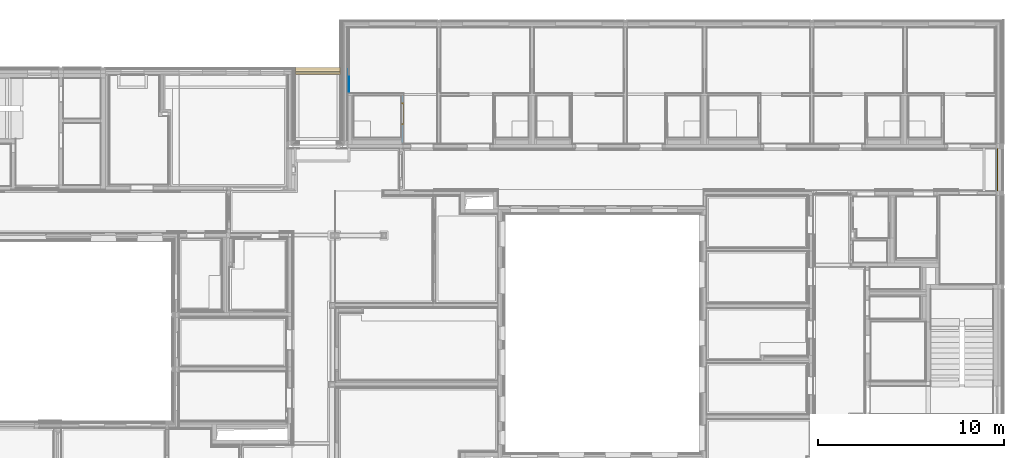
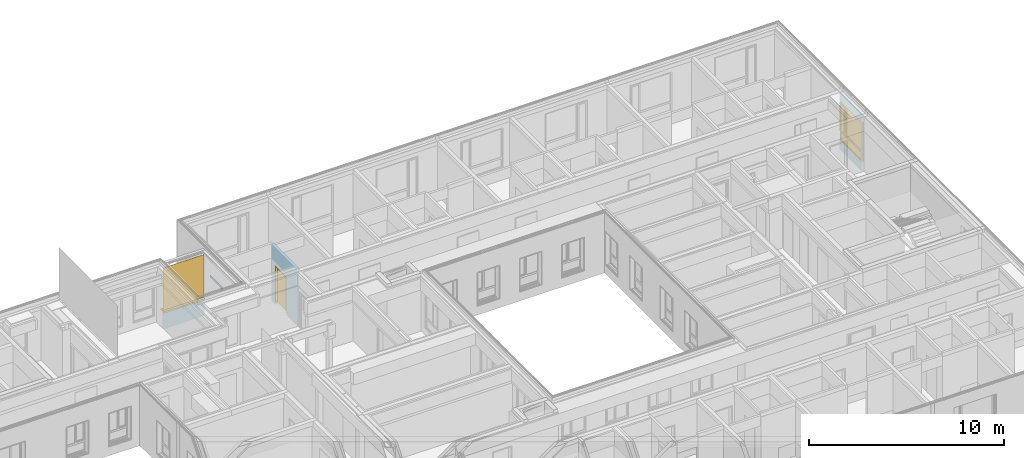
# One storey, part 139 of 222: 2 windows, 1 door, 1 wall, 3 openings, plus 3 elements that do not belong to this part.
"""IFC4 building model written with IfcOpenShell, lengths in metres."""

from ifc_helpers import new_model, entity, si_unit, converted_unit, derived_unit, frame, frame_2d, origin, origin_with_axes, place, context, subcontext, project, spatial, polyline, rectangle, outline, extrude, closed_shell, open_shell, faceted_brep, surface_model, source, transform, mapped, material, type_object, element, fill, save


model = new_model("IFC4")

# Units and contexts
model_context = context("Model", 3, precision=1e-05, world=origin())
body_context = subcontext(model_context, "Body", "Model", "MODEL_VIEW")
ifc_project = project(units=[si_unit("LENGTHUNIT", "METRE"), si_unit("AREAUNIT", "SQUARE_METRE"), si_unit("VOLUMEUNIT", "CUBIC_METRE"), si_unit("MASSUNIT", "GRAM", prefix="KILO"), converted_unit("PLANEANGLEUNIT", "DEGREE", entity("IfcPlaneAngleMeasure", 0.0174532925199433), si_unit("PLANEANGLEUNIT", "RADIAN"), dimensions=[0, 0, 0, 0, 0, 0, 0]), derived_unit("THERMALTRANSMITTANCEUNIT", [(si_unit("POWERUNIT", "WATT"), 1), (si_unit("THERMODYNAMICTEMPERATUREUNIT", "KELVIN"), -1), (si_unit("LENGTHUNIT", "METRE"), -2)]), derived_unit("VOLUMETRICFLOWRATEUNIT", [(si_unit("LENGTHUNIT", "METRE"), 3), (converted_unit("TIMEUNIT", "hour", entity("IfcTimeMeasure", 3600.0), si_unit("TIMEUNIT", "SECOND"), dimensions=[0, 0, 1, 0, 0, 0, 0]), -1), (si_unit("LENGTHUNIT", "METRE"), -1)])], contexts=[model_context])

# Site, building, storey
site_placement = place(None, origin())
site = spatial("IfcSite", under=ifc_project, at=site_placement, Name="Psychiatrie Neubau Wunstorf", CompositionType="ELEMENT")
building_placement = place(site_placement, origin())
building = spatial("IfcBuilding", under=site, at=building_placement, Name="Neubau H2 Stationsgebäude", CompositionType="ELEMENT")
storey_placement = place(building_placement, frame((0.0, 0.0, 3.6)))
storey = spatial("IfcBuildingStorey", under=building, at=storey_placement, Name="H2 Ebene +1", CompositionType="ELEMENT", Elevation=3.6)

# Wall, opening, window
ifc_material_1 = material(Name="WA-LB")
wall_1_placement = place(storey_placement, frame((105.889, 25.1174999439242, 0.0), z_axis=(0.0, 0.0, 1.0), x_axis=(0.0, -1.0, 0.0)))
wall_1 = element("IfcWall", 1, at=wall_1_placement, inside=storey, material=ifc_material_1, context=body_context, shape_type="SweptSolid", body=[
    extrude(rectangle(XDim=2.28149995, YDim=0.036, at=frame_2d((1.140749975, 0.018), x_axis=(1.0, 0.0))), origin_with_axes(), (0.0, 0.0, 1.0), 3.55),
])
opening_1_placement = place(wall_1_placement, frame((0.0, 0.0, 0.55), z_axis=(0.0, 1.0, 0.0), x_axis=(0.0, 0.0, 1.0)))
opening_1 = element("IfcOpeningElement", 2, at=opening_1_placement, cuts=wall_1, Name="Fensteröffnung", ObjectType="Opening", context=body_context, shape_type="SweptSolid", body=[
    extrude(outline(polyline([(2.5, 2.28), (2.5, 0.0), (0.0, 0.0), (0.0, 2.28), (2.5, 2.28)])), origin_with_axes(), (0.0, 0.0, 1.0), 0.036),
])
shared_shape_1 = source(origin_with_axes(), body_context, "Body", "SurfaceModel", [
    surface_model("IfcShellBasedSurfaceModel", [(0.0, 0.0, 2.5), (0.0699999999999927, 0.0, 2.5), (0.0699999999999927, 0.0, 0.0), (0.0, 0.0, 0.0), (0.0, 0.0700000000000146, 0.0), (0.0699999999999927, 0.0700000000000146, 0.0), (0.0699999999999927, 0.0700000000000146, 2.5), (0.0, 0.0700000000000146, 2.5)], [closed_shell([[[0, 1, 2, 3]], [[4, 5, 6, 7]], [[3, 4, 7, 0]], [[2, 5, 4, 3]], [[1, 6, 5, 2]], [[0, 7, 6, 1]]], orient=[[False], [False], [False], [False], [False], [False]])]),
    surface_model("IfcShellBasedSurfaceModel", [(2.20999999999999, 0.0, 2.5), (2.27999999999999, 0.0, 2.5), (2.27999999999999, 0.0, 0.0), (2.20999999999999, 0.0, 0.0), (2.20999999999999, 0.0700000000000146, 0.0), (2.27999999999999, 0.0700000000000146, 0.0), (2.27999999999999, 0.0700000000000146, 2.5), (2.20999999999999, 0.0700000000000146, 2.5)], [closed_shell([[[0, 1, 2, 3]], [[4, 5, 6, 7]], [[3, 4, 7, 0]], [[2, 5, 4, 3]], [[1, 6, 5, 2]], [[0, 7, 6, 1]]], orient=[[False], [False], [False], [False], [False], [False]])]),
    surface_model("IfcShellBasedSurfaceModel", [(0.0699999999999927, 0.0, 0.07), (2.20999999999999, 0.0, 0.07), (2.20999999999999, 0.0, 0.0), (0.0699999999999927, 0.0, 0.0), (0.0699999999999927, 0.0700000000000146, 0.0), (2.20999999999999, 0.0700000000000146, 0.0), (2.20999999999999, 0.0700000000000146, 0.07), (0.0699999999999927, 0.0700000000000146, 0.07)], [closed_shell([[[0, 1, 2, 3]], [[4, 5, 6, 7]], [[3, 4, 7, 0]], [[2, 5, 4, 3]], [[1, 6, 5, 2]], [[0, 7, 6, 1]]], orient=[[False], [False], [False], [False], [False], [False]])]),
    surface_model("IfcShellBasedSurfaceModel", [(0.0699999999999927, 0.0, 2.5), (2.20999999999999, 0.0, 2.5), (2.20999999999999, 0.0, 2.43), (0.0699999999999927, 0.0, 2.43), (0.0699999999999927, 0.0700000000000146, 2.43), (2.20999999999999, 0.0700000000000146, 2.43), (2.20999999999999, 0.0700000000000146, 2.5), (0.0699999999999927, 0.0700000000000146, 2.5)], [closed_shell([[[0, 1, 2, 3]], [[4, 5, 6, 7]], [[3, 4, 7, 0]], [[2, 5, 4, 3]], [[1, 6, 5, 2]], [[0, 7, 6, 1]]], orient=[[False], [False], [False], [False], [False], [False]])]),
    surface_model("IfcShellBasedSurfaceModel", [(0.0699999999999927, 0.0, 0.67), (2.20999999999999, 0.0, 0.67), (2.20999999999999, 0.0, 0.57), (0.0699999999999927, 0.0, 0.57), (0.0699999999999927, 0.0700000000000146, 0.57), (2.20999999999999, 0.0700000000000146, 0.57), (2.20999999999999, 0.0700000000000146, 0.67), (0.0699999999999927, 0.0700000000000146, 0.67)], [closed_shell([[[0, 1, 2, 3]], [[4, 5, 6, 7]], [[3, 4, 7, 0]], [[2, 5, 4, 3]], [[1, 6, 5, 2]], [[0, 7, 6, 1]]], orient=[[False], [False], [False], [False], [False], [False]])]),
    surface_model("IfcShellBasedSurfaceModel", [(0.0699999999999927, 0.035, 0.07), (0.0699999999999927, 0.035, 0.57), (2.20999999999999, 0.035, 0.57), (2.20999999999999, 0.035, 0.07)], [open_shell([[[0, 1, 2, 3]]], orient=[[False]])]),
    surface_model("IfcShellBasedSurfaceModel", [(1.63999999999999, 0.0, 2.43), (1.70999999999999, 0.0, 2.43), (1.70999999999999, 0.0, 0.67), (1.63999999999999, 0.0, 0.67), (1.63999999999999, 0.0700000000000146, 0.67), (1.70999999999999, 0.0700000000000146, 0.67), (1.70999999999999, 0.0700000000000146, 2.43), (1.63999999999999, 0.0700000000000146, 2.43)], [closed_shell([[[0, 1, 2, 3]], [[4, 5, 6, 7]], [[3, 4, 7, 0]], [[2, 5, 4, 3]], [[1, 6, 5, 2]], [[0, 7, 6, 1]]], orient=[[False], [False], [False], [False], [False], [False]])]),
    surface_model("IfcShellBasedSurfaceModel", [(0.0699999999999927, 0.035, 0.67), (0.0699999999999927, 0.035, 2.43), (1.63999999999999, 0.035, 2.43), (1.63999999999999, 0.035, 0.67)], [open_shell([[[0, 1, 2, 3]]], orient=[[False]])]),
    surface_model("IfcShellBasedSurfaceModel", [(1.68999999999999, 0.05, 2.45), (1.75999999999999, 0.05, 2.45), (1.75999999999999, 0.05, 0.65), (1.68999999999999, 0.05, 0.65), (1.68999999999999, 0.120000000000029, 0.65), (1.75999999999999, 0.120000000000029, 0.65), (1.75999999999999, 0.120000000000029, 2.45), (1.68999999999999, 0.120000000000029, 2.45)], [closed_shell([[[0, 1, 2, 3]], [[4, 5, 6, 7]], [[3, 4, 7, 0]], [[2, 5, 4, 3]], [[1, 6, 5, 2]], [[0, 7, 6, 1]]], orient=[[False], [False], [False], [False], [False], [False]])]),
    surface_model("IfcShellBasedSurfaceModel", [(2.15999999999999, 0.05, 2.45), (2.22999999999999, 0.05, 2.45), (2.22999999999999, 0.05, 0.65), (2.15999999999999, 0.05, 0.65), (2.15999999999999, 0.120000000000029, 0.65), (2.22999999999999, 0.120000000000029, 0.65), (2.22999999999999, 0.120000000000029, 2.45), (2.15999999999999, 0.120000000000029, 2.45)], [closed_shell([[[0, 1, 2, 3]], [[4, 5, 6, 7]], [[3, 4, 7, 0]], [[2, 5, 4, 3]], [[1, 6, 5, 2]], [[0, 7, 6, 1]]], orient=[[False], [False], [False], [False], [False], [False]])]),
    surface_model("IfcShellBasedSurfaceModel", [(1.75999999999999, 0.05, 0.72), (2.15999999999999, 0.05, 0.72), (2.15999999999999, 0.05, 0.65), (1.75999999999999, 0.05, 0.65), (1.75999999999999, 0.120000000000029, 0.65), (2.15999999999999, 0.120000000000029, 0.65), (2.15999999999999, 0.120000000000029, 0.72), (1.75999999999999, 0.120000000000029, 0.72)], [closed_shell([[[0, 1, 2, 3]], [[4, 5, 6, 7]], [[3, 4, 7, 0]], [[2, 5, 4, 3]], [[1, 6, 5, 2]], [[0, 7, 6, 1]]], orient=[[False], [False], [False], [False], [False], [False]])]),
    surface_model("IfcShellBasedSurfaceModel", [(1.75999999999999, 0.05, 2.45), (2.15999999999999, 0.05, 2.45), (2.15999999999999, 0.05, 2.38), (1.75999999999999, 0.05, 2.38), (1.75999999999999, 0.120000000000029, 2.38), (2.15999999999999, 0.120000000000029, 2.38), (2.15999999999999, 0.120000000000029, 2.45), (1.75999999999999, 0.120000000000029, 2.45)], [closed_shell([[[0, 1, 2, 3]], [[4, 5, 6, 7]], [[3, 4, 7, 0]], [[2, 5, 4, 3]], [[1, 6, 5, 2]], [[0, 7, 6, 1]]], orient=[[False], [False], [False], [False], [False], [False]])]),
    surface_model("IfcShellBasedSurfaceModel", [(1.75999999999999, 0.0850000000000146, 0.72), (1.75999999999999, 0.0850000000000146, 2.38), (2.15999999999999, 0.0850000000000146, 2.38), (2.15999999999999, 0.0850000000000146, 0.72)], [open_shell([[[0, 1, 2, 3]]], orient=[[False]])]),
])
window_1_placement = place(opening_1_placement, frame((0.0, 2.28, 0.1), z_axis=(1.0, 0.0, 0.0), x_axis=(0.0, -1.0, 0.0)))
window_1 = element("IfcWindow", 3, at=window_1_placement, inside=storey, Name="Fenster", OverallHeight=2.5, OverallWidth=2.28, PartitioningType="USERDEFINED", PredefinedType="WINDOW", context=body_context, shape_type="MappedRepresentation", body=[
    mapped(shared_shape_1, transform((0.0, 0.0, 0.0), x_axis=(1.0, 0.0, 0.0), y_axis=(0.0, 1.0, 0.0), z_axis=(0.0, 0.0, 1.0), scale=1.0)),
])
fill(opening_1, window_1)

ifc_material_2 = material(Name="WI-SYS")
wall_2_placement = place(storey_placement, frame((70.709, 29.2649998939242, -0.51), z_axis=(0.0, 0.0, 1.0), x_axis=(-1.0, 0.0, 0.0)))
wall_2 = element("IfcWall", 4, at=wall_2_placement, inside=storey, material=ifc_material_2, context=body_context, shape_type="SweptSolid", body=[
    extrude(rectangle(XDim=2.418, YDim=0.127500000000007, at=frame_2d((1.209, 0.0637500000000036), x_axis=(1.0, 0.0))), origin_with_axes(), (0.0, 0.0, 1.0), 3.685),
])
opening_2_placement = place(wall_2_placement, frame((0.0, 0.0, 1.0), z_axis=(0.0, 1.0, 0.0), x_axis=(0.0, 0.0, 1.0)))
opening_2 = element("IfcOpeningElement", 5, at=opening_2_placement, cuts=wall_2, Name="Fensteröffnung", ObjectType="Opening", context=body_context, shape_type="SweptSolid", body=[
    extrude(outline(polyline([(2.755, 2.418), (2.755, 0.0), (0.0, 0.0), (0.0, 2.418), (2.755, 2.418)])), origin_with_axes(), (0.0, 0.0, 1.0), 0.127500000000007),
])
shared_shape_2 = source(origin_with_axes(), body_context, "Body", "Brep", [
    faceted_brep([(0.0, 0.37, 0.1), (0.0, 0.37, 0.0), (2.418, 0.37, 0.0), (2.418, 0.37, 0.1), (0.0, 0.0, 0.0), (0.0, 0.0, 0.1), (2.418, 0.0, 0.1), (2.418, 0.0, 0.0)], [[[0, 1, 2, 3]], [[4, 5, 6, 7]], [[1, 0, 5, 4]], [[2, 1, 4, 7]], [[3, 2, 7, 6]], [[0, 3, 6, 5]]], orient=[[False], [False], [False], [False], [False], [False]]),
    faceted_brep([(0.0, 0.24, 2.755), (0.0, 0.24, 0.1), (0.06, 0.24, 0.1), (0.06, 0.24, 2.755), (0.0, 0.225, 0.1), (0.0, 0.225, 2.755), (0.06, 0.225, 2.755), (0.06, 0.225, 0.1)], [[[0, 1, 2, 3]], [[4, 5, 6, 7]], [[1, 0, 5, 4]], [[2, 1, 4, 7]], [[3, 2, 7, 6]], [[0, 3, 6, 5]]], orient=[[False], [False], [False], [False], [False], [False]]),
    faceted_brep([(2.358, 0.24, 2.755), (2.358, 0.24, 0.1), (2.418, 0.24, 0.1), (2.418, 0.24, 2.755), (2.358, 0.225, 0.1), (2.358, 0.225, 2.755), (2.418, 0.225, 2.755), (2.418, 0.225, 0.1)], [[[0, 1, 2, 3]], [[4, 5, 6, 7]], [[1, 0, 5, 4]], [[2, 1, 4, 7]], [[3, 2, 7, 6]], [[0, 3, 6, 5]]], orient=[[False], [False], [False], [False], [False], [False]]),
    faceted_brep([(0.06, 0.24, 0.12), (0.06, 0.24, 0.1), (2.358, 0.24, 0.1), (2.358, 0.24, 0.12), (0.06, 0.225, 0.1), (0.06, 0.225, 0.12), (2.358, 0.225, 0.12), (2.358, 0.225, 0.1)], [[[0, 1, 2, 3]], [[4, 5, 6, 7]], [[1, 0, 5, 4]], [[2, 1, 4, 7]], [[3, 2, 7, 6]], [[0, 3, 6, 5]]], orient=[[False], [False], [False], [False], [False], [False]]),
    faceted_brep([(0.06, 0.24, 2.755), (0.06, 0.24, 2.635), (2.358, 0.24, 2.635), (2.358, 0.24, 2.755), (0.06, 0.225, 2.635), (0.06, 0.225, 2.755), (2.358, 0.225, 2.755), (2.358, 0.225, 2.635)], [[[0, 1, 2, 3]], [[4, 5, 6, 7]], [[1, 0, 5, 4]], [[2, 1, 4, 7]], [[3, 2, 7, 6]], [[0, 3, 6, 5]]], orient=[[False], [False], [False], [False], [False], [False]]),
    faceted_brep([(0.786, 0.24, 2.635), (0.786, 0.24, 0.12), (0.846, 0.24, 0.12), (0.846, 0.24, 2.635), (0.786, 0.225, 0.12), (0.786, 0.225, 2.635), (0.846, 0.225, 2.635), (0.846, 0.225, 0.12)], [[[0, 1, 2, 3]], [[4, 5, 6, 7]], [[1, 0, 5, 4]], [[2, 1, 4, 7]], [[3, 2, 7, 6]], [[0, 3, 6, 5]]], orient=[[False], [False], [False], [False], [False], [False]]),
    faceted_brep([(1.572, 0.24, 2.635), (1.572, 0.24, 0.12), (1.632, 0.24, 0.12), (1.632, 0.24, 2.635), (1.572, 0.225, 0.12), (1.572, 0.225, 2.635), (1.632, 0.225, 2.635), (1.632, 0.225, 0.12)], [[[0, 1, 2, 3]], [[4, 5, 6, 7]], [[1, 0, 5, 4]], [[2, 1, 4, 7]], [[3, 2, 7, 6]], [[0, 3, 6, 5]]], orient=[[False], [False], [False], [False], [False], [False]]),
    faceted_brep([(0.06, 0.24, 2.635), (0.06, 0.24, 0.12), (0.786, 0.24, 0.12), (0.786, 0.24, 2.635), (0.06, 0.225, 0.12), (0.06, 0.225, 2.635), (0.786, 0.225, 2.635), (0.786, 0.225, 0.12)], [[[0, 1, 2, 3]], [[4, 5, 6, 7]], [[1, 0, 5, 4]], [[2, 1, 4, 7]], [[3, 2, 7, 6]], [[0, 3, 6, 5]]], orient=[[False], [False], [False], [False], [False], [False]]),
    faceted_brep([(0.846, 0.24, 2.635), (0.846, 0.24, 0.12), (1.572, 0.24, 0.12), (1.572, 0.24, 2.635), (0.846, 0.225, 0.12), (0.846, 0.225, 2.635), (1.572, 0.225, 2.635), (1.572, 0.225, 0.12)], [[[0, 1, 2, 3]], [[4, 5, 6, 7]], [[1, 0, 5, 4]], [[2, 1, 4, 7]], [[3, 2, 7, 6]], [[0, 3, 6, 5]]], orient=[[False], [False], [False], [False], [False], [False]]),
    faceted_brep([(1.632, 0.24, 2.635), (1.632, 0.24, 0.12), (2.358, 0.24, 0.12), (2.358, 0.24, 2.635), (1.632, 0.225, 0.12), (1.632, 0.225, 2.635), (2.358, 0.225, 2.635), (2.358, 0.225, 0.12)], [[[0, 1, 2, 3]], [[4, 5, 6, 7]], [[1, 0, 5, 4]], [[2, 1, 4, 7]], [[3, 2, 7, 6]], [[0, 3, 6, 5]]], orient=[[False], [False], [False], [False], [False], [False]]),
])
window_2_placement = place(opening_2_placement, frame((0.0, 0.0, -0.202500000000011), z_axis=(1.0, 0.0, 0.0), x_axis=(0.0, 1.0, -1.22464679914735e-16)))
window_2 = element("IfcWindow", 6, at=window_2_placement, inside=storey, Name="Fenster", OverallHeight=2.755, OverallWidth=2.418, PartitioningType="USERDEFINED", PredefinedType="WINDOW", context=body_context, shape_type="MappedRepresentation", body=[
    mapped(shared_shape_2, transform((0.0, 0.0, 0.0), x_axis=(1.0, 0.0, 0.0), y_axis=(0.0, 1.0, 0.0), z_axis=(0.0, 0.0, 1.0), scale=1.0)),
])
fill(opening_2, window_2)

# Wall, opening, door
ifc_material_3 = material(Name="WI-LB")
wall_3_placement = place(storey_placement, frame((73.975, 27.9575, 0.0), z_axis=(0.0, 0.0, 1.0), x_axis=(0.0, -1.0, 0.0)))
wall_3 = element("IfcWall", 7, at=wall_3_placement, inside=storey, material=ifc_material_3, context=body_context, shape_type="SweptSolid", body=[
    extrude(rectangle(XDim=2.60799999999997, YDim=0.125, at=frame_2d((1.30399999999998, 0.0625), x_axis=(1.0, 0.0))), origin_with_axes(), (0.0, 0.0, 1.0), 3.55),
])
opening_3_placement = place(wall_3_placement, frame((0.4, 0.0, 0.0), z_axis=(0.0, 1.0, 0.0), x_axis=(0.0, 0.0, 1.0)))
opening_3 = element("IfcOpeningElement", 8, at=opening_3_placement, cuts=wall_3, Name="Türöffnung", ObjectType="Opening", context=body_context, shape_type="SweptSolid", body=[
    extrude(outline(polyline([(2.41, 1.135), (2.41, 0.0), (0.0, 0.0), (0.0, 1.135), (2.41, 1.135)])), origin_with_axes(), (0.0, 0.0, 1.0), 0.125),
])
ifc_material_4 = material(Name="TI-1F-UZ-D-N")
door_type = type_object("IfcDoorType", Name="SMT", OperationType="SINGLE_SWING_RIGHT", ParameterTakesPrecedence=False, PredefinedType="DOOR")
shared_shape_3 = source(origin_with_axes(), body_context, "Body", "Brep", [
    faceted_brep([(-0.0499999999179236, 0.0125000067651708, 0.0), (0.0, 0.0125000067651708, 0.0), (0.0, 0.112499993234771, 0.0), (-0.0499999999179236, 0.112499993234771, 0.0), (-0.0499999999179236, 0.112499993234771, 3.55), (0.0, 0.112499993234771, 3.55), (0.0, 0.0125000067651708, 3.55), (-0.0499999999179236, 0.0125000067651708, 3.55)], [[[0, 1, 2, 3]], [[4, 5, 6, 7]], [[3, 4, 7, 0]], [[2, 5, 4, 3]], [[1, 6, 5, 2]], [[0, 7, 6, 1]]], orient=[[False], [False], [False], [False], [False], [False]]),
    faceted_brep([(1.13500000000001, 0.0125000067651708, 0.0), (1.18499999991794, 0.0125000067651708, 0.0), (1.18499999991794, 0.112499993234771, 0.0), (1.13500000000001, 0.112499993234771, 0.0), (1.13500000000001, 0.112499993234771, 3.55), (1.18499999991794, 0.112499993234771, 3.55), (1.18499999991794, 0.0125000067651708, 3.55), (1.13500000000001, 0.0125000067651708, 3.55)], [[[0, 1, 2, 3]], [[4, 5, 6, 7]], [[3, 4, 7, 0]], [[2, 5, 4, 3]], [[1, 6, 5, 2]], [[0, 7, 6, 1]]], orient=[[False], [False], [False], [False], [False], [False]]),
    faceted_brep([(0.0, 0.0125000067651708, 2.41), (1.13500000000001, 0.0125000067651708, 2.41), (1.13500000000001, 0.112499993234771, 2.41), (0.0, 0.112499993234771, 2.41), (0.0, 0.112499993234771, 2.46), (1.13500000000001, 0.112499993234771, 2.46), (1.13500000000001, 0.0125000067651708, 2.46), (0.0, 0.0125000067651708, 2.46)], [[[0, 1, 2, 3]], [[4, 5, 6, 7]], [[3, 4, 7, 0]], [[2, 5, 4, 3]], [[1, 6, 5, 2]], [[0, 7, 6, 1]]], orient=[[False], [False], [False], [False], [False], [False]]),
])
shared_shape_4 = source(origin_with_axes(), body_context, "Body", "Brep", [
    faceted_brep([(-0.0499999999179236, 0.0125000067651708, 0.0), (0.0, 0.0125000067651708, 0.0), (0.0, 0.112499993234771, 0.0), (-0.0499999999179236, 0.112499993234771, 0.0), (-0.0499999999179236, 0.112499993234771, 3.55), (0.0, 0.112499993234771, 3.55), (0.0, 0.0125000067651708, 3.55), (-0.0499999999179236, 0.0125000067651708, 3.55)], [[[0, 1, 2, 3]], [[4, 5, 6, 7]], [[3, 4, 7, 0]], [[2, 5, 4, 3]], [[1, 6, 5, 2]], [[0, 7, 6, 1]]], orient=[[False], [False], [False], [False], [False], [False]]),
    faceted_brep([(1.13500000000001, 0.0125000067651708, 0.0), (1.18499999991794, 0.0125000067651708, 0.0), (1.18499999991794, 0.112499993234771, 0.0), (1.13500000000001, 0.112499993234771, 0.0), (1.13500000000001, 0.112499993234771, 3.55), (1.18499999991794, 0.112499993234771, 3.55), (1.18499999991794, 0.0125000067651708, 3.55), (1.13500000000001, 0.0125000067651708, 3.55)], [[[0, 1, 2, 3]], [[4, 5, 6, 7]], [[3, 4, 7, 0]], [[2, 5, 4, 3]], [[1, 6, 5, 2]], [[0, 7, 6, 1]]], orient=[[False], [False], [False], [False], [False], [False]]),
    faceted_brep([(0.0, 0.0125000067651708, 2.41), (1.13500000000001, 0.0125000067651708, 2.41), (1.13500000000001, 0.112499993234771, 2.41), (0.0, 0.112499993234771, 2.41), (0.0, 0.112499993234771, 2.46), (1.13500000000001, 0.112499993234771, 2.46), (1.13500000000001, 0.0125000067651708, 2.46), (0.0, 0.0125000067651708, 2.46)], [[[0, 1, 2, 3]], [[4, 5, 6, 7]], [[3, 4, 7, 0]], [[2, 5, 4, 3]], [[1, 6, 5, 2]], [[0, 7, 6, 1]]], orient=[[False], [False], [False], [False], [False], [False]]),
])
shared_shape_5 = source(origin_with_axes(), body_context, "Body", "Brep", [
    faceted_brep([(1.13500000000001, -0.0150000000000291, 2.41), (1.13500000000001, -0.0150000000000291, 0.15), (1.09500000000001, -0.0150000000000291, 0.15), (1.09500000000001, -0.0150000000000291, 2.41), (1.13500000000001, 0.139999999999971, 0.15), (1.13500000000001, 0.139999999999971, 2.41), (1.09500000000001, 0.139999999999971, 2.41), (1.09500000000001, 0.139999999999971, 0.15)], [[[0, 1, 2, 3]], [[4, 5, 6, 7]], [[1, 0, 5, 4]], [[2, 1, 4, 7]], [[3, 2, 7, 6]], [[0, 3, 6, 5]]], orient=[[False], [False], [False], [False], [False], [False]]),
    faceted_brep([(1.13500000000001, -0.0150000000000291, 2.425), (1.15000000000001, -0.0150000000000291, 2.425), (1.15000000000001, -0.0150000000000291, 0.15), (1.13500000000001, -0.0150000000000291, 0.15), (1.13500000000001, 0.0, 0.15), (1.15000000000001, 0.0, 0.15), (1.15000000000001, 0.0, 2.425), (1.13500000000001, 0.0, 2.425)], [[[0, 1, 2, 3]], [[4, 5, 6, 7]], [[3, 4, 7, 0]], [[2, 5, 4, 3]], [[1, 6, 5, 2]], [[0, 7, 6, 1]]], orient=[[False], [False], [False], [False], [False], [False]]),
    faceted_brep([(1.13500000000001, 0.124999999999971, 2.425), (1.15000000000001, 0.124999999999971, 2.425), (1.15000000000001, 0.124999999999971, 0.15), (1.13500000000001, 0.124999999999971, 0.15), (1.13500000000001, 0.139999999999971, 0.15), (1.15000000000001, 0.139999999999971, 0.15), (1.15000000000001, 0.139999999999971, 2.425), (1.13500000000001, 0.139999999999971, 2.425)], [[[0, 1, 2, 3]], [[4, 5, 6, 7]], [[3, 4, 7, 0]], [[2, 5, 4, 3]], [[1, 6, 5, 2]], [[0, 7, 6, 1]]], orient=[[False], [False], [False], [False], [False], [False]]),
    faceted_brep([(0.0400000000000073, -0.0150000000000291, 2.41), (0.0400000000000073, -0.0150000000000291, 0.15), (0.0, -0.0150000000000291, 0.15), (0.0, -0.0150000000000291, 2.41), (0.0400000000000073, 0.139999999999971, 0.15), (0.0400000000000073, 0.139999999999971, 2.41), (0.0, 0.139999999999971, 2.41), (0.0, 0.139999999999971, 0.15)], [[[0, 1, 2, 3]], [[4, 5, 6, 7]], [[1, 0, 5, 4]], [[2, 1, 4, 7]], [[3, 2, 7, 6]], [[0, 3, 6, 5]]], orient=[[False], [False], [False], [False], [False], [False]]),
    faceted_brep([(0.0, -0.0150000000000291, 2.425), (0.0, -0.0150000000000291, 0.15), (-0.0149999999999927, -0.0150000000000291, 0.15), (-0.0149999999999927, -0.0150000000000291, 2.425), (0.0, 0.0, 0.15), (0.0, 0.0, 2.425), (-0.0149999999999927, 0.0, 2.425), (-0.0149999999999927, 0.0, 0.15)], [[[0, 1, 2, 3]], [[4, 5, 6, 7]], [[1, 0, 5, 4]], [[2, 1, 4, 7]], [[3, 2, 7, 6]], [[0, 3, 6, 5]]], orient=[[False], [False], [False], [False], [False], [False]]),
    faceted_brep([(0.0, 0.124999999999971, 2.425), (0.0, 0.124999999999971, 0.15), (-0.0149999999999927, 0.124999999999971, 0.15), (-0.0149999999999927, 0.124999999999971, 2.425), (0.0, 0.139999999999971, 0.15), (0.0, 0.139999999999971, 2.425), (-0.0149999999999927, 0.139999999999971, 2.425), (-0.0149999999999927, 0.139999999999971, 0.15)], [[[0, 1, 2, 3]], [[4, 5, 6, 7]], [[1, 0, 5, 4]], [[2, 1, 4, 7]], [[3, 2, 7, 6]], [[0, 3, 6, 5]]], orient=[[False], [False], [False], [False], [False], [False]]),
    faceted_brep([(1.09500000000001, -0.0150000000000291, 2.41), (1.09500000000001, -0.0150000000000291, 2.37), (0.0400000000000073, -0.0150000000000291, 2.37), (0.0400000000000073, -0.0150000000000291, 2.41), (1.09500000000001, 0.139999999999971, 2.37), (1.09500000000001, 0.139999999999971, 2.41), (0.0400000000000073, 0.139999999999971, 2.41), (0.0400000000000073, 0.139999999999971, 2.37)], [[[0, 1, 2, 3]], [[4, 5, 6, 7]], [[1, 0, 5, 4]], [[2, 1, 4, 7]], [[3, 2, 7, 6]], [[0, 3, 6, 5]]], orient=[[False], [False], [False], [False], [False], [False]]),
    faceted_brep([(1.13500000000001, -0.0150000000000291, 2.425), (1.13500000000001, -0.0150000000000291, 2.41), (0.0, -0.0150000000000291, 2.41), (0.0, -0.0150000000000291, 2.425), (1.13500000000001, 0.0, 2.41), (1.13500000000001, 0.0, 2.425), (0.0, 0.0, 2.425), (0.0, 0.0, 2.41)], [[[0, 1, 2, 3]], [[4, 5, 6, 7]], [[1, 0, 5, 4]], [[2, 1, 4, 7]], [[3, 2, 7, 6]], [[0, 3, 6, 5]]], orient=[[False], [False], [False], [False], [False], [False]]),
    faceted_brep([(1.13500000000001, 0.124999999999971, 2.425), (1.13500000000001, 0.124999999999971, 2.41), (0.0, 0.124999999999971, 2.41), (0.0, 0.124999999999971, 2.425), (1.13500000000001, 0.139999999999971, 2.41), (1.13500000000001, 0.139999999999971, 2.425), (0.0, 0.139999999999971, 2.425), (0.0, 0.139999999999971, 2.41)], [[[0, 1, 2, 3]], [[4, 5, 6, 7]], [[1, 0, 5, 4]], [[2, 1, 4, 7]], [[3, 2, 7, 6]], [[0, 3, 6, 5]]], orient=[[False], [False], [False], [False], [False], [False]]),
    faceted_brep([(1.11000000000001, 0.0909999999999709, 2.385), (1.11000000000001, 0.0909999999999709, 0.15), (0.0250000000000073, 0.0909999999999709, 0.15), (0.0250000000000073, 0.0909999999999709, 2.385), (1.11000000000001, 0.140999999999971, 0.15), (1.11000000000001, 0.140999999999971, 2.385), (0.0250000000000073, 0.140999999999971, 2.385), (0.0250000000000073, 0.140999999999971, 0.15)], [[[0, 1, 2, 3]], [[4, 5, 6, 7]], [[1, 0, 5, 4]], [[2, 1, 4, 7]], [[3, 2, 7, 6]], [[0, 3, 6, 5]]], orient=[[False], [False], [False], [False], [False], [False]]),
])
door_placement = place(opening_3_placement, frame((0.0, 0.0, 0.0), z_axis=(1.0, 0.0, 0.0), x_axis=(0.0, 1.0, 0.0)))
door = element("IfcDoor", 9, at=door_placement, inside=storey, type_object=door_type, material=ifc_material_4, Name="SMT", OverallHeight=2.41, OverallWidth=1.135, context=body_context, shape_type="MappedRepresentation", body=[
    mapped(shared_shape_3, transform((0.0, 0.0, 0.0), x_axis=(1.0, 0.0, 0.0), y_axis=(0.0, 1.0, 0.0), z_axis=(0.0, 0.0, 1.0), scale=1.0)),
    mapped(shared_shape_4, transform((0.0, 0.0, 0.0), x_axis=(1.0, 0.0, 0.0), y_axis=(0.0, 1.0, 0.0), z_axis=(0.0, 0.0, 1.0), scale=1.0)),
    mapped(shared_shape_5, transform((0.0, 0.0, 0.0), x_axis=(1.0, 0.0, 0.0), y_axis=(0.0, 1.0, 0.0), z_axis=(0.0, 0.0, 1.0), scale=1.0)),
])
fill(opening_3, door)

# Wall
wall_4_placement = place(storey_placement, frame((71.161, 28.1628, 1.575)))
element("IfcWall", 10, at=wall_4_placement, inside=storey, Name="WV 1.1", context=body_context, shape_type="Brep", body=[
    faceted_brep([(0.025, 1.2, 0.0), (0.0, 1.2, 0.0), (0.0, 0.0, 0.0), (0.025, 0.0, 0.0), (0.0, 1.2, 0.15), (0.025, 1.2, 0.15), (0.025, 0.0, 0.15), (0.0, 0.0, 0.15)], [[[0, 1, 2, 3]], [[4, 5, 6, 7]], [[1, 0, 5, 4]], [[2, 1, 4, 7]], [[3, 2, 7, 6]], [[0, 3, 6, 5]]], orient=[[False], [False], [False], [False], [False], [False]]),
])

save(model, "model.ifc")
